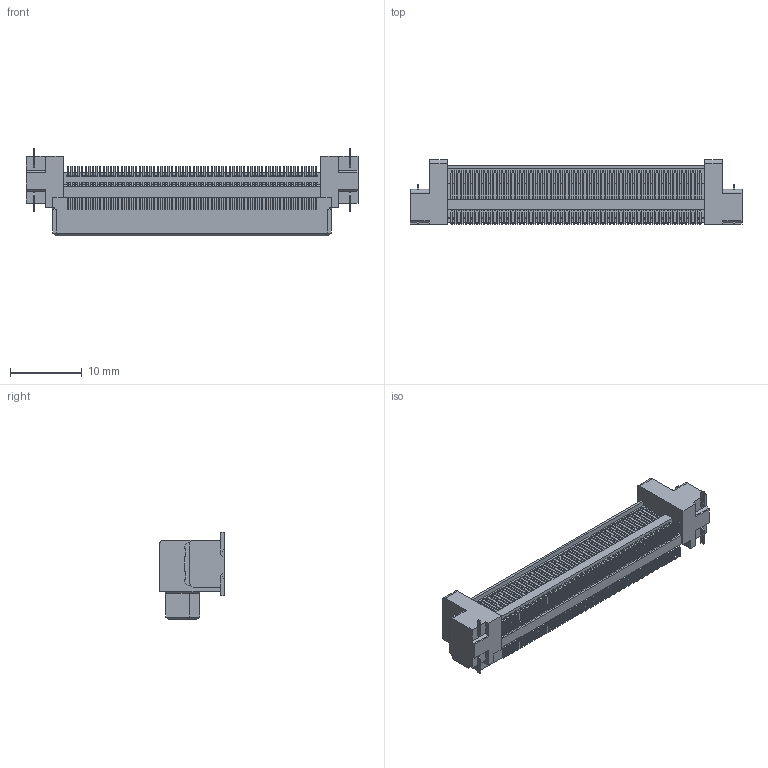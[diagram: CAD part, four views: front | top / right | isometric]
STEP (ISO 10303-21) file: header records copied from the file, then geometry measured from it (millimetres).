
FILE_DESCRIPTION(('Creo Elements/Direct Modeling STEP Export'),'2;1');
FILE_NAME('DT10-140L.stp','2018-11-12T16:53:31',(''),(''),'Creo Elements/Direct Modeling STEP processor for AP214 (Solid Model)','Creo Elements/Direct Modeling 19.0F 14-Feb-2017 (C) Parametric Technology GmbH','');
FILE_SCHEMA(('AUTOMOTIVE_DESIGN { 1 0 10303 214 1 1 1 1 }'));
Products named in the file (2): DT10-140L_model
Assembly tree (1 placements, depth 2):
  DT10-140L_model
    DT10-140L_model
Bounding box: 46.12 x 9 x 12.2 mm (x, y, z)
Volume: 1895.8 mm3; surface area: 2924 mm2
Topology: 1 solids, 1 shells, 6900 faces, 19396 edges, 12640 vertices
Faces by surface type: plane 5768, cylinder 1132
Entity records: 213186 total; most frequent: ORIENTED_EDGE 38792, CARTESIAN_POINT 37349, DIRECTION 33164, EDGE_CURVE 19396, VECTOR 16254, LINE 16254, VERTEX_POINT 12640, AXIS2_PLACEMENT_3D 8455
